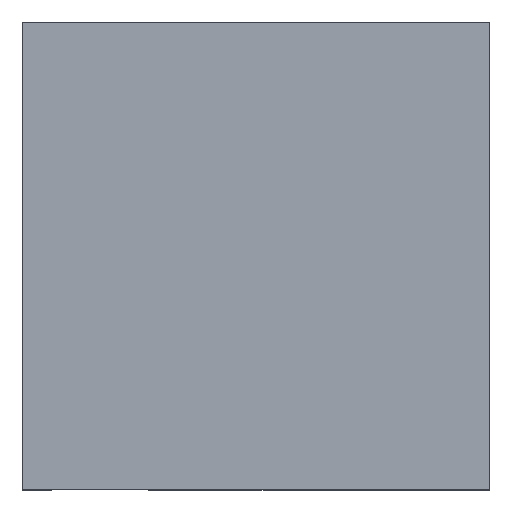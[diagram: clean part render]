
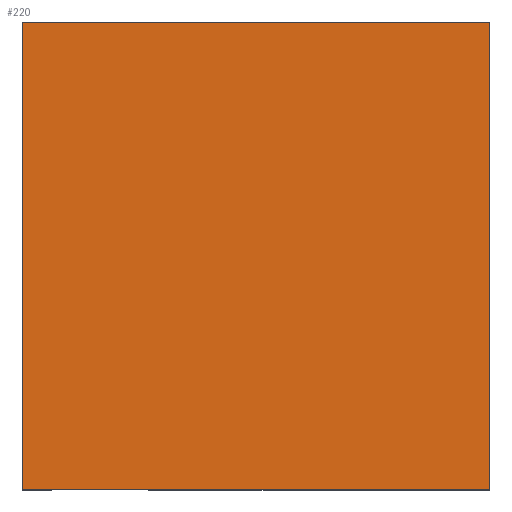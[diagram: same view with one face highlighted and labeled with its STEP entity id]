
A CAD part, top view. The second image highlights one B-rep face of the part: STEP entity #220.
In plain terms, the highlighted planar face has unit normal (0, 0, 1).
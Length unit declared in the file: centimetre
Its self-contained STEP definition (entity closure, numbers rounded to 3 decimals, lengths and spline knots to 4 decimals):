
#3 = VECTOR ( 'NONE', #20, 100. ) ;
#12 = LINE ( 'NONE', #325, #735 ) ;
#20 = DIRECTION ( 'NONE',  ( 0., -1., 0. ) ) ;
#33 = LINE ( 'NONE', #983, #3 ) ;
#69 = AXIS2_PLACEMENT_3D ( 'NONE', #815, #521, #806 ) ;
#84 = CARTESIAN_POINT ( 'NONE',  ( 0., 0., 1000. ) ) ;
#120 = DIRECTION ( 'NONE',  ( 0., 1., 0. ) ) ;
#200 = VERTEX_POINT ( 'NONE', #415 ) ;
#215 = CARTESIAN_POINT ( 'NONE',  ( 0., 1000., 1000. ) ) ;
#220 = ADVANCED_FACE ( 'NONE', ( #732 ), #337, .T. ) ;
#244 = EDGE_CURVE ( 'NONE', #914, #822, #12, .T. ) ;
#245 = DIRECTION ( 'NONE',  ( -1., 0., 0. ) ) ;
#248 = VECTOR ( 'NONE', #884, 100. ) ;
#253 = CARTESIAN_POINT ( 'NONE',  ( 1000., 0., 1000. ) ) ;
#325 = CARTESIAN_POINT ( 'NONE',  ( 0., 1000., 1000. ) ) ;
#337 = PLANE ( 'NONE',  #69 ) ;
#338 = ORIENTED_EDGE ( 'NONE', *, *, #517, .T. ) ;
#346 = EDGE_CURVE ( 'NONE', #822, #200, #33, .T. ) ;
#415 = CARTESIAN_POINT ( 'NONE',  ( 0., 0., 1000. ) ) ;
#517 = EDGE_CURVE ( 'NONE', #773, #914, #541, .T. ) ;
#521 = DIRECTION ( 'NONE',  ( 0., 0., 1. ) ) ;
#541 = LINE ( 'NONE', #601, #1004 ) ;
#594 = ORIENTED_EDGE ( 'NONE', *, *, #982, .T. ) ;
#601 = CARTESIAN_POINT ( 'NONE',  ( 1000., 1000., 1000. ) ) ;
#732 = FACE_OUTER_BOUND ( 'NONE', #828, .T. ) ;
#735 = VECTOR ( 'NONE', #245, 100. ) ;
#761 = ORIENTED_EDGE ( 'NONE', *, *, #346, .T. ) ;
#766 = ORIENTED_EDGE ( 'NONE', *, *, #244, .T. ) ;
#773 = VERTEX_POINT ( 'NONE', #253 ) ;
#806 = DIRECTION ( 'NONE',  ( 1., 0., 0. ) ) ;
#815 = CARTESIAN_POINT ( 'NONE',  ( 0., 0., 1000. ) ) ;
#822 = VERTEX_POINT ( 'NONE', #215 ) ;
#828 = EDGE_LOOP ( 'NONE', ( #761, #594, #338, #766 ) ) ;
#860 = CARTESIAN_POINT ( 'NONE',  ( 1000., 1000., 1000. ) ) ;
#873 = LINE ( 'NONE', #84, #248 ) ;
#884 = DIRECTION ( 'NONE',  ( 1., 0., 0. ) ) ;
#914 = VERTEX_POINT ( 'NONE', #860 ) ;
#982 = EDGE_CURVE ( 'NONE', #200, #773, #873, .T. ) ;
#983 = CARTESIAN_POINT ( 'NONE',  ( 0., 1000., 1000. ) ) ;
#1004 = VECTOR ( 'NONE', #120, 100. ) ;
